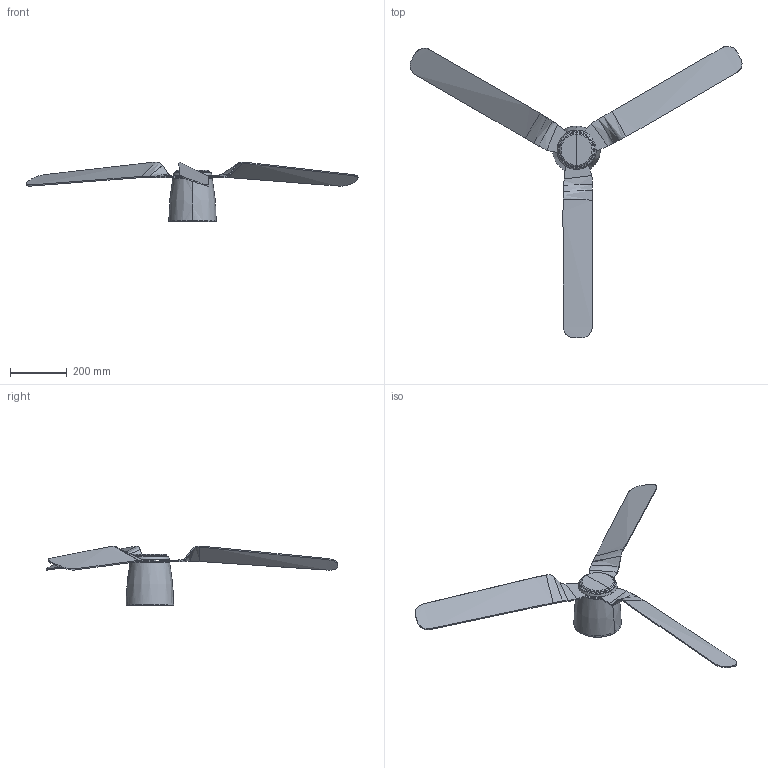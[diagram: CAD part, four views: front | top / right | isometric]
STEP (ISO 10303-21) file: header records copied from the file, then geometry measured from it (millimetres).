
FILE_DESCRIPTION(/* description */ (''),/* implementation_level */ '2;1');
FILE_NAME(/* name */ 'C:\Users\FrancoSartori\Documents\FARO\01_En Proceso\00_PEMBA\03_Publicación\33491.stp',/* time_stamp */ '2021-06-15T13:28:49+02:00',/* author */ ('FrancoSartori'),/* organization */ (''),/* preprocessor_version */ 'ST-DEVELOPER v18.1',/* originating_system */ 'AutoCAD Mechanical',/* authorisation */ '');
FILE_SCHEMA (('AUTOMOTIVE_DESIGN { 1 0 10303 214 3 1 1 }'));
Length unit declared in the file: millimetre
Products named in the file (2): Product; 33471N_ 33491_ 33492_ 33471N-3_ 33491-4_ 33492-5_ - fan-484419-Export
Assembly tree (1 placements, depth 2):
  Product
    33471N_ 33491_ 33492_ 33471N-3_ 33491-4_ 33492-5_ - fan-484419-Export
Bounding box: 1166.63 x 1023.77 x 210.31 mm (x, y, z)
Volume: 3922722.9 mm3; surface area: 589361.7 mm2
Topology: 6 solids, 6 shells, 162 faces, 446 edges, 290 vertices
Faces by surface type: cylinder 69, plane 49, bspline 28, torus 10, cone 6
Entity records: 6468 total; most frequent: CARTESIAN_POINT 2437, ORIENTED_EDGE 892, DIRECTION 746, EDGE_CURVE 446, AXIS2_PLACEMENT_3D 291, VERTEX_POINT 290, EDGE_LOOP 184, LINE 164
